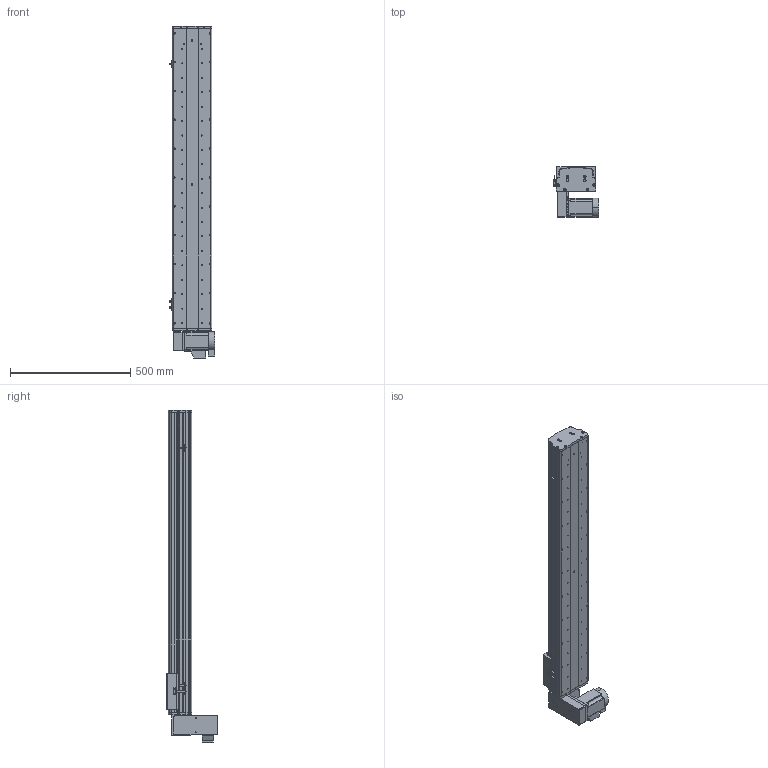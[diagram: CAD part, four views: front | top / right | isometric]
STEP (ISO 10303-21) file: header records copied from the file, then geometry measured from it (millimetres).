
FILE_DESCRIPTION (( 'STEP AP214' ), '1' );
FILE_NAME ('KSD165B-S1000-MLD-CM.STEP', '2017-10-16T07:13:12', ( '微软用户' ), ( '微软中国' ), 'SwSTEP 2.0', 'SolidWorks 2014', '' );
FILE_SCHEMA (( 'AUTOMOTIVE_DESIGN' ));
Length unit declared in the file: millimetre
Products named in the file (17): U倰嫖萇假蚾璃; U倰嫖萇EEㄜSX672; 覜茼え68遵圉猾敕; KSD165模组-同步带-防撞垫2; KSD165模组同步带-防撞垫1; KSD165耀郪-ヶ傷啣1-肮祭湍; KSD165模组-后端板1-同步带; KSD165模组-同步带滑动座-最新版; KSD165B-S1000-MLD-CM; 130宽模组马达安装板连板上下折丝杆同步带; 130宽模组保护罩上下左右折-同步带; HTPA26S5M250-A-H8 750W萇儂蚚; HTPA26S5M250-A-H8 400W萇儂蚚 ; 拸秶雄ん750W侜督萇儂; KSD165模组同步带底板-1000行程; KSD165模组-同步带防尘盖1-1000行程; 165宽马达安装板同步带左-改
Assembly tree (20 placements, depth 2):
  KSD165B-S1000-MLD-CM
    KSD165模组-同步带滑动座-最新版
    KSD165模组-后端板1-同步带
    KSD165耀郪-ヶ傷啣1-肮祭湍
    KSD165模组同步带-防撞垫1
    KSD165模组-同步带-防撞垫2
    覜茼え68遵圉猾敕
    U倰嫖萇EEㄜSX672  x3
    U倰嫖萇假蚾璃  x3
    165宽马达安装板同步带左-改
    KSD165模组-同步带防尘盖1-1000行程
    KSD165模组同步带底板-1000行程
    拸秶雄ん750W侜督萇儂
    HTPA26S5M250-A-H8 400W萇儂蚚 
    HTPA26S5M250-A-H8 750W萇儂蚚
    130宽模组保护罩上下左右折-同步带
    130宽模组马达安装板连板上下折丝杆同步带
Bounding box: 191.2 x 210 x 1381 mm (x, y, z)
Volume: 7915956.1 mm3; surface area: 1842028.2 mm2
Topology: 21 solids, 22 shells, 1979 faces, 5586 edges, 3648 vertices
Faces by surface type: cylinder 1277, plane 590, cone 112
Entity records: 64384 total; most frequent: CARTESIAN_POINT 13194, DIRECTION 10570, ORIENTED_EDGE 9832, EDGE_CURVE 4916, AXIS2_PLACEMENT_3D 4150, VERTEX_POINT 3240, CIRCLE 2368, LINE 2270
